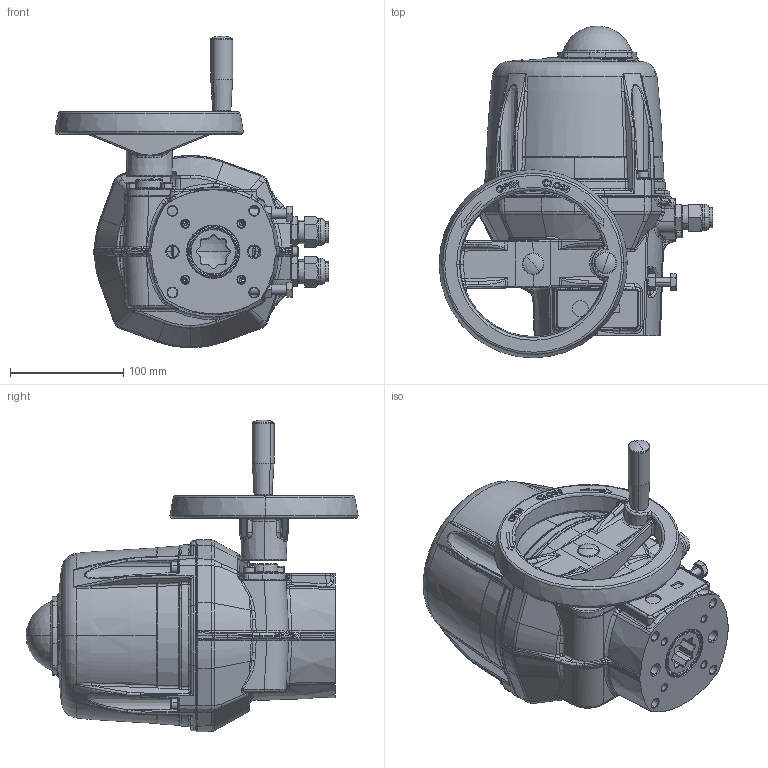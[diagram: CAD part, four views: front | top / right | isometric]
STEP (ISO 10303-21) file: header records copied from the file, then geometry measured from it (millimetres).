
FILE_DESCRIPTION (( 'STEP AP214' ), '1' );
FILE_NAME ('VS300-90A-G00 allongé.STEP', '2021-12-14T10:20:02', ( '' ), ( '' ), 'SwSTEP 2.0', 'SolidWorks 2017', '' );
FILE_SCHEMA (( 'AUTOMOTIVE_DESIGN' ));
Length unit declared in the file: millimetre
Products named in the file (1): VS300-90A-G00 allongé
Bounding box: 241.53 x 292.98 x 275.23 mm (x, y, z)
Surface area: 258263.8 mm2 (no closed solid volume)
Topology: 0 solids, 51 shells, 1688 faces, 5195 edges, 3374 vertices
Faces by surface type: bspline 515, plane 444, cylinder 296, torus 213, cone 186, sphere 34
Entity records: 93572 total; most frequent: CARTESIAN_POINT 33864, ORIENTED_EDGE 8695, DIRECTION 7799, EDGE_CURVE 5146, VERTEX_POINT 3374, AXIS2_PLACEMENT_3D 3149, CIRCLE 1975, EDGE_LOOP 1793
